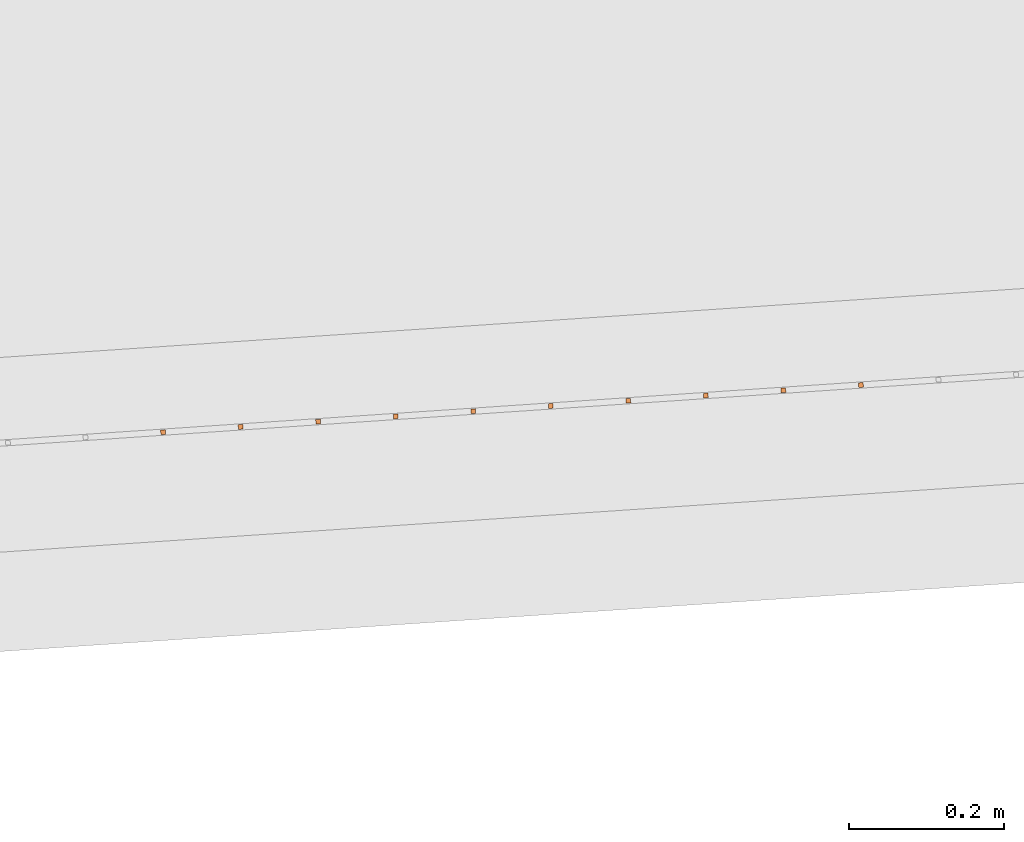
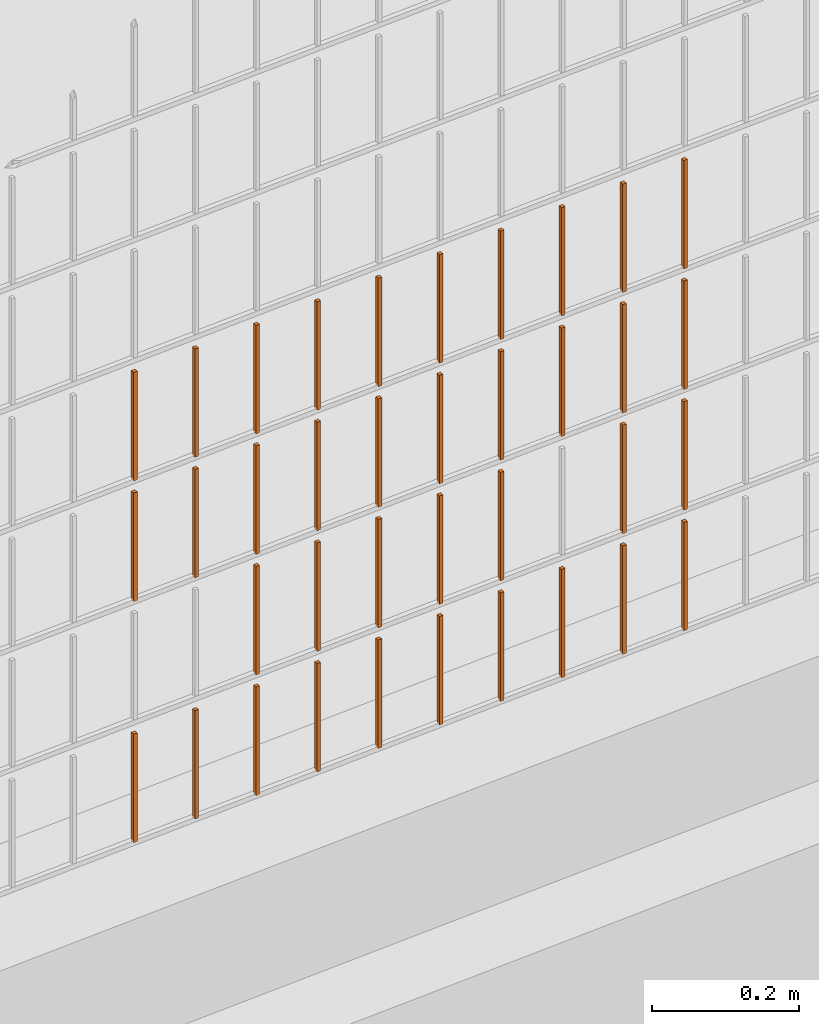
# One storey, part 213 of 1809: 37 proxies, 1 element without a shape of its own.
"""IFC2X3 building model written with IfcOpenShell, lengths in millimetres."""

from ifc_helpers import new_model, entity, si_unit, converted_unit, derived_unit, money_unit, direction, frame, origin_with_axes, place, context, subcontext, project, spatial, faceted_brep, source, transform, mapped, material, type_object, element, aggregate, save


model = new_model("IFC2X3")

# Units and contexts
model_context = context("Model", 3, precision=0.01, world=origin_with_axes(), true_north=direction((0.0, 1.0)))
body_context = subcontext(model_context, "Body", "Model", "MODEL_VIEW")
ifc_project = project(units=[si_unit("LENGTHUNIT", "METRE", prefix="MILLI"), si_unit("AREAUNIT", "SQUARE_METRE"), si_unit("VOLUMEUNIT", "CUBIC_METRE"), converted_unit("PLANEANGLEUNIT", "DEGREE", entity("IfcPlaneAngleMeasure", 0.0174532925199), si_unit("PLANEANGLEUNIT", "RADIAN"), dimensions=[0, 0, 0, 0, 0, 0, 0]), si_unit("SOLIDANGLEUNIT", "STERADIAN"), money_unit("EUR"), converted_unit("TIMEUNIT", "Year", entity("IfcTimeMeasure", 31556926.0), si_unit("TIMEUNIT", "SECOND"), dimensions=[0, 0, 1, 0, 0, 0, 0]), si_unit("MASSUNIT", "GRAM", prefix="KILO"), si_unit("THERMODYNAMICTEMPERATUREUNIT", "DEGREE_CELSIUS"), si_unit("LUMINOUSINTENSITYUNIT", "LUMEN"), si_unit("ENERGYUNIT", "JOULE", prefix="MEGA"), derived_unit("THERMALCONDUCTANCEUNIT", [(si_unit("POWERUNIT", "WATT"), 1), (si_unit("LENGTHUNIT", "METRE"), -1), (si_unit("THERMODYNAMICTEMPERATUREUNIT", "KELVIN"), -1)]), derived_unit("SPECIFICHEATCAPACITYUNIT", [(si_unit("ENERGYUNIT", "JOULE"), 1), (si_unit("MASSUNIT", "GRAM", prefix="KILO"), -1), (si_unit("THERMODYNAMICTEMPERATUREUNIT", "KELVIN"), -1)]), derived_unit("MASSDENSITYUNIT", [(si_unit("MASSUNIT", "GRAM", prefix="KILO"), 1), (si_unit("VOLUMEUNIT", "CUBIC_METRE"), -1)])], contexts=[model_context])

# Site, building, storey
site_placement = place(None, origin_with_axes())
site = spatial("IfcSite", under=ifc_project, at=site_placement, Name="Politse- ja Piirivalveameti ning Päästeameti ühishoone", CompositionType="ELEMENT")
building_placement = place(site_placement, origin_with_axes())
building = spatial("IfcBuilding", under=site, at=building_placement, Name="Politse- ja Piirivalveameti ning Päästeameti ühishoone", CompositionType="ELEMENT")
storey_placement = place(building_placement, origin_with_axes())
storey = spatial("IfcBuildingStorey", under=building, at=storey_placement, Name="Esimene korrus", CompositionType="ELEMENT", Elevation=0.0)

# Proxies
building_element_proxy_type_1 = type_object("IfcBuildingElementProxyType", Name="Railing Type", PredefinedType="NOTDEFINED")
proxy_1_placement = place(storey_placement, frame((89252.001212, -29183.4766571, 203.661247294), z_axis=(0.0, 0.0, 1.0), x_axis=(1.0, 0.0, 0.0)))
proxy_1 = element("IfcBuildingElementProxy", 1, at=proxy_1_placement, inside=storey, type_object=building_element_proxy_type_1, Name="PIIRDEAED")
ifc_material = material(Name="ET-03_Raud")
building_element_proxy_type_2 = type_object("IfcBuildingElementProxyType", Name="IfcBuildingElementProxy", PredefinedType="NOTDEFINED")
shared_shape_1 = source(origin_with_axes(), body_context, "Body", "Brep", [
    faceted_brep([(3.0, 3.0, -0.000752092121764), (-3.0, 3.0, -0.000752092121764), (-3.0, 3.0, 179.99926046), (3.0, 3.0, 179.99926046), (3.0, -3.0, 0.000752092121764), (-3.0, -3.0, 0.000752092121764), (-3.0, -3.0, 180.000764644), (3.0, -3.0, 180.000764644)], [[[0, 1, 2, 3]], [[0, 4, 5, 1]], [[1, 5, 6, 2]], [[3, 2, 6, 7]], [[4, 0, 3, 7]], [[5, 4, 7, 6]]]),
])
proxy_2_placement = place(proxy_1_placement, frame((-60688.4003334, -21397.0471744, 11.985294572), z_axis=(0.0, 0.0, 1.0), x_axis=(1.0, 0.0, 0.0)))
proxy_2 = element("IfcBuildingElementProxy", 2, at=proxy_2_placement, type_object=building_element_proxy_type_2, material=ifc_material, Name="BALUSTER - 001", context=body_context, shape_type="MappedRepresentation", body=[
    mapped(shared_shape_1, transform((0.0, 0.0, 0.0), x_axis=(-0.0673926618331, 0.997726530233, 0.0), y_axis=(-0.997726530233, -0.0673926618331, 0.0), z_axis=(0.0, 0.0, 1.0))),
])
shared_shape_2 = source(origin_with_axes(), body_context, "Body", "Brep", [
    faceted_brep([(3.0, 3.0, -0.000752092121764), (-3.0, 3.0, -0.000752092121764), (-3.0, 3.0, 179.99926046), (3.0, 3.0, 179.99926046), (3.0, -3.0, 0.000752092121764), (-3.0, -3.0, 0.000752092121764), (-3.0, -3.0, 180.000764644), (3.0, -3.0, 180.000764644)], [[[0, 1, 2, 3]], [[0, 4, 5, 1]], [[1, 5, 6, 2]], [[3, 2, 6, 7]], [[4, 0, 3, 7]], [[5, 4, 7, 6]]]),
])
proxy_3_placement = place(proxy_1_placement, frame((-60887.9456394, -21410.5257067, 11.9351550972), z_axis=(0.0, 0.0, 1.0), x_axis=(1.0, 0.0, 0.0)))
proxy_3 = element("IfcBuildingElementProxy", 3, at=proxy_3_placement, type_object=building_element_proxy_type_2, material=ifc_material, Name="BALUSTER - 001", context=body_context, shape_type="MappedRepresentation", body=[
    mapped(shared_shape_2, transform((0.0, 0.0, 0.0), x_axis=(-0.0673926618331, 0.997726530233, 0.0), y_axis=(-0.997726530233, -0.0673926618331, 0.0), z_axis=(0.0, 0.0, 1.0))),
])
shared_shape_3 = source(origin_with_axes(), body_context, "Body", "Brep", [
    faceted_brep([(3.0, 3.0, -0.000752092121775), (-3.0, 3.0, -0.000752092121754), (-3.0, 3.0, 179.99926046), (3.0, 3.0, 179.99926046), (3.0, -3.0, 0.000752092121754), (-3.0, -3.0, 0.000752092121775), (-3.0, -3.0, 180.000764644), (3.0, -3.0, 180.000764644)], [[[0, 1, 2, 3]], [[0, 4, 5, 1]], [[1, 5, 6, 2]], [[3, 2, 6, 7]], [[4, 0, 3, 7]], [[5, 4, 7, 6]]]),
])
proxy_4_placement = place(proxy_1_placement, frame((-60189.5370682, -21363.3508434, 12.110643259), z_axis=(0.0, 0.0, 1.0), x_axis=(1.0, 0.0, 0.0)))
proxy_4 = element("IfcBuildingElementProxy", 4, at=proxy_4_placement, type_object=building_element_proxy_type_2, material=ifc_material, Name="BALUSTER - 001", context=body_context, shape_type="MappedRepresentation", body=[
    mapped(shared_shape_3, transform((0.0, 0.0, 0.0), x_axis=(-0.0673926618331, 0.997726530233, 0.0), y_axis=(-0.997726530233, -0.0673926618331, 0.0), z_axis=(0.0, 0.0, 1.0))),
])
shared_shape_4 = source(origin_with_axes(), body_context, "Body", "Brep", [
    faceted_brep([(3.0, 3.0, -0.000752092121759), (-3.0, 3.0, -0.000752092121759), (-3.0, 3.0, 179.99926046), (3.0, 3.0, 179.99926046), (3.0, -3.0, 0.000752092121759), (-3.0, -3.0, 0.000752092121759), (-3.0, -3.0, 180.000764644), (3.0, -3.0, 180.000764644)], [[[0, 1, 2, 3]], [[0, 4, 5, 1]], [[1, 5, 6, 2]], [[3, 2, 6, 7]], [[4, 0, 3, 7]], [[5, 4, 7, 6]]]),
])
proxy_5_placement = place(proxy_1_placement, frame((-61087.4909454, -21424.0042391, 411.885015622), z_axis=(0.0, 0.0, 1.0), x_axis=(1.0, 0.0, 0.0)))
proxy_5 = element("IfcBuildingElementProxy", 5, at=proxy_5_placement, type_object=building_element_proxy_type_2, material=ifc_material, Name="BALUSTER - 001", context=body_context, shape_type="MappedRepresentation", body=[
    mapped(shared_shape_4, transform((0.0, 0.0, 0.0), x_axis=(-0.0673926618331, 0.997726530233, 0.0), y_axis=(-0.997726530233, -0.0673926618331, 0.0), z_axis=(0.0, 0.0, 1.0))),
])
shared_shape_5 = source(origin_with_axes(), body_context, "Body", "Brep", [
    faceted_brep([(3.0, 3.0, -0.000752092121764), (-3.0, 3.0, -0.000752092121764), (-3.0, 3.0, 179.99926046), (3.0, 3.0, 179.99926046), (3.0, -3.0, 0.000752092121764), (-3.0, -3.0, 0.000752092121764), (-3.0, -3.0, 180.000764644), (3.0, -3.0, 180.000764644)], [[[0, 1, 2, 3]], [[0, 4, 5, 1]], [[1, 5, 6, 2]], [[3, 2, 6, 7]], [[4, 0, 3, 7]], [[5, 4, 7, 6]]]),
])
proxy_6_placement = place(proxy_1_placement, frame((-60887.9456394, -21410.5257067, 211.935155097), z_axis=(0.0, 0.0, 1.0), x_axis=(1.0, 0.0, 0.0)))
proxy_6 = element("IfcBuildingElementProxy", 6, at=proxy_6_placement, type_object=building_element_proxy_type_2, material=ifc_material, Name="BALUSTER - 001", context=body_context, shape_type="MappedRepresentation", body=[
    mapped(shared_shape_5, transform((0.0, 0.0, 0.0), x_axis=(-0.0673926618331, 0.997726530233, 0.0), y_axis=(-0.997726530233, -0.0673926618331, 0.0), z_axis=(0.0, 0.0, 1.0))),
])
proxy_7_placement = place(proxy_1_placement, frame((-60887.9456394, -21410.5257067, 411.935155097), z_axis=(0.0, 0.0, 1.0), x_axis=(1.0, 0.0, 0.0)))
proxy_7 = element("IfcBuildingElementProxy", 7, at=proxy_7_placement, type_object=building_element_proxy_type_2, material=ifc_material, Name="BALUSTER - 001", context=body_context, shape_type="MappedRepresentation", body=[
    mapped(shared_shape_5, transform((0.0, 0.0, 0.0), x_axis=(-0.0673926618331, 0.997726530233, 0.0), y_axis=(-0.997726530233, -0.0673926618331, 0.0), z_axis=(0.0, 0.0, 1.0))),
])
proxy_8_placement = place(proxy_1_placement, frame((-60887.9456394, -21410.5257067, 611.935155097), z_axis=(0.0, 0.0, 1.0), x_axis=(1.0, 0.0, 0.0)))
proxy_8 = element("IfcBuildingElementProxy", 8, at=proxy_8_placement, type_object=building_element_proxy_type_2, material=ifc_material, Name="BALUSTER - 001", context=body_context, shape_type="MappedRepresentation", body=[
    mapped(shared_shape_5, transform((0.0, 0.0, 0.0), x_axis=(-0.0673926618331, 0.997726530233, 0.0), y_axis=(-0.997726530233, -0.0673926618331, 0.0), z_axis=(0.0, 0.0, 1.0))),
])
shared_shape_6 = source(origin_with_axes(), body_context, "Body", "Brep", [
    faceted_brep([(3.0, 3.0, -0.000752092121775), (-3.0, 3.0, -0.000752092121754), (-3.0, 3.0, 179.99926046), (3.0, 3.0, 179.99926046), (3.0, -3.0, 0.000752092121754), (-3.0, -3.0, 0.000752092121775), (-3.0, -3.0, 180.000764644), (3.0, -3.0, 180.000764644)], [[[0, 1, 2, 3]], [[0, 4, 5, 1]], [[1, 5, 6, 2]], [[3, 2, 6, 7]], [[4, 0, 3, 7]], [[5, 4, 7, 6]]]),
])
proxy_9_placement = place(proxy_1_placement, frame((-60189.5370682, -21363.3508434, 212.110643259), z_axis=(0.0, 0.0, 1.0), x_axis=(1.0, 0.0, 0.0)))
proxy_9 = element("IfcBuildingElementProxy", 9, at=proxy_9_placement, type_object=building_element_proxy_type_2, material=ifc_material, Name="BALUSTER - 001", context=body_context, shape_type="MappedRepresentation", body=[
    mapped(shared_shape_6, transform((0.0, 0.0, 0.0), x_axis=(-0.0673926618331, 0.997726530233, 0.0), y_axis=(-0.997726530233, -0.0673926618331, 0.0), z_axis=(0.0, 0.0, 1.0))),
])
proxy_10_placement = place(proxy_1_placement, frame((-60189.5370682, -21363.3508434, 412.110643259), z_axis=(0.0, 0.0, 1.0), x_axis=(1.0, 0.0, 0.0)))
proxy_10 = element("IfcBuildingElementProxy", 10, at=proxy_10_placement, type_object=building_element_proxy_type_2, material=ifc_material, Name="BALUSTER - 001", context=body_context, shape_type="MappedRepresentation", body=[
    mapped(shared_shape_6, transform((0.0, 0.0, 0.0), x_axis=(-0.0673926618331, 0.997726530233, 0.0), y_axis=(-0.997726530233, -0.0673926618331, 0.0), z_axis=(0.0, 0.0, 1.0))),
])
proxy_11_placement = place(proxy_1_placement, frame((-60189.5370682, -21363.3508434, 612.110643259), z_axis=(0.0, 0.0, 1.0), x_axis=(1.0, 0.0, 0.0)))
proxy_11 = element("IfcBuildingElementProxy", 11, at=proxy_11_placement, type_object=building_element_proxy_type_2, material=ifc_material, Name="BALUSTER - 001", context=body_context, shape_type="MappedRepresentation", body=[
    mapped(shared_shape_6, transform((0.0, 0.0, 0.0), x_axis=(-0.0673926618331, 0.997726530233, 0.0), y_axis=(-0.997726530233, -0.0673926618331, 0.0), z_axis=(0.0, 0.0, 1.0))),
])
shared_shape_7 = source(origin_with_axes(), body_context, "Body", "Brep", [
    faceted_brep([(3.0, 3.0, -0.000752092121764), (-3.0, 3.0, -0.000752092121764), (-3.0, 3.0, 179.99926046), (3.0, 3.0, 179.99926046), (3.0, -3.0, 0.000752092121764), (-3.0, -3.0, 0.000752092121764), (-3.0, -3.0, 180.000764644), (3.0, -3.0, 180.000764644)], [[[0, 1, 2, 3]], [[0, 4, 5, 1]], [[1, 5, 6, 2]], [[3, 2, 6, 7]], [[4, 0, 3, 7]], [[5, 4, 7, 6]]]),
])
proxy_12_placement = place(proxy_1_placement, frame((-60688.4003334, -21397.0471744, 211.985294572), z_axis=(0.0, 0.0, 1.0), x_axis=(1.0, 0.0, 0.0)))
proxy_12 = element("IfcBuildingElementProxy", 12, at=proxy_12_placement, type_object=building_element_proxy_type_2, material=ifc_material, Name="BALUSTER - 001", context=body_context, shape_type="MappedRepresentation", body=[
    mapped(shared_shape_7, transform((0.0, 0.0, 0.0), x_axis=(-0.0673926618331, 0.997726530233, 0.0), y_axis=(-0.997726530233, -0.0673926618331, 0.0), z_axis=(0.0, 0.0, 1.0))),
])
proxy_13_placement = place(proxy_1_placement, frame((-60688.4003334, -21397.0471744, 411.985294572), z_axis=(0.0, 0.0, 1.0), x_axis=(1.0, 0.0, 0.0)))
proxy_13 = element("IfcBuildingElementProxy", 13, at=proxy_13_placement, type_object=building_element_proxy_type_2, material=ifc_material, Name="BALUSTER - 001", context=body_context, shape_type="MappedRepresentation", body=[
    mapped(shared_shape_7, transform((0.0, 0.0, 0.0), x_axis=(-0.0673926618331, 0.997726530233, 0.0), y_axis=(-0.997726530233, -0.0673926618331, 0.0), z_axis=(0.0, 0.0, 1.0))),
])
proxy_14_placement = place(proxy_1_placement, frame((-60788.1729864, -21403.7864405, 411.960224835), z_axis=(0.0, 0.0, 1.0), x_axis=(1.0, 0.0, 0.0)))
proxy_14 = element("IfcBuildingElementProxy", 14, at=proxy_14_placement, type_object=building_element_proxy_type_2, material=ifc_material, Name="BALUSTER - 001", context=body_context, shape_type="MappedRepresentation", body=[
    mapped(shared_shape_7, transform((0.0, 0.0, 0.0), x_axis=(-0.0673926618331, 0.997726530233, 0.0), y_axis=(-0.997726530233, -0.0673926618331, 0.0), z_axis=(0.0, 0.0, 1.0))),
])
proxy_15_placement = place(proxy_1_placement, frame((-60788.1729864, -21403.7864405, 611.960224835), z_axis=(0.0, 0.0, 1.0), x_axis=(1.0, 0.0, 0.0)))
proxy_15 = element("IfcBuildingElementProxy", 15, at=proxy_15_placement, type_object=building_element_proxy_type_2, material=ifc_material, Name="BALUSTER - 001", context=body_context, shape_type="MappedRepresentation", body=[
    mapped(shared_shape_7, transform((0.0, 0.0, 0.0), x_axis=(-0.0673926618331, 0.997726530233, 0.0), y_axis=(-0.997726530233, -0.0673926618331, 0.0), z_axis=(0.0, 0.0, 1.0))),
])
shared_shape_8 = source(origin_with_axes(), body_context, "Body", "Brep", [
    faceted_brep([(3.0, 3.0, -0.000752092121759), (-3.0, 3.0, -0.000752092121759), (-3.0, 3.0, 179.99926046), (3.0, 3.0, 179.99926046), (3.0, -3.0, 0.000752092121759), (-3.0, -3.0, 0.000752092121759), (-3.0, -3.0, 180.000764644), (3.0, -3.0, 180.000764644)], [[[0, 1, 2, 3]], [[0, 4, 5, 1]], [[1, 5, 6, 2]], [[3, 2, 6, 7]], [[4, 0, 3, 7]], [[5, 4, 7, 6]]]),
])
proxy_16_placement = place(proxy_1_placement, frame((-60289.3097213, -21370.0901096, 212.085573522), z_axis=(0.0, 0.0, 1.0), x_axis=(1.0, 0.0, 0.0)))
proxy_16 = element("IfcBuildingElementProxy", 16, at=proxy_16_placement, type_object=building_element_proxy_type_2, material=ifc_material, Name="BALUSTER - 001", context=body_context, shape_type="MappedRepresentation", body=[
    mapped(shared_shape_8, transform((0.0, 0.0, 0.0), x_axis=(-0.0673926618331, 0.997726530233, 0.0), y_axis=(-0.997726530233, -0.0673926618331, 0.0), z_axis=(0.0, 0.0, 1.0))),
])
proxy_17_placement = place(proxy_1_placement, frame((-60289.3097213, -21370.0901096, 612.085573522), z_axis=(0.0, 0.0, 1.0), x_axis=(1.0, 0.0, 0.0)))
proxy_17 = element("IfcBuildingElementProxy", 17, at=proxy_17_placement, type_object=building_element_proxy_type_2, material=ifc_material, Name="BALUSTER - 001", context=body_context, shape_type="MappedRepresentation", body=[
    mapped(shared_shape_8, transform((0.0, 0.0, 0.0), x_axis=(-0.0673926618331, 0.997726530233, 0.0), y_axis=(-0.997726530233, -0.0673926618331, 0.0), z_axis=(0.0, 0.0, 1.0))),
])
shared_shape_9 = source(origin_with_axes(), body_context, "Body", "Brep", [
    faceted_brep([(3.0, 3.0, -0.000752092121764), (-3.0, 3.0, -0.000752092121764), (-3.0, 3.0, 179.99926046), (3.0, 3.0, 179.99926046), (3.0, -3.0, 0.000752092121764), (-3.0, -3.0, 0.000752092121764), (-3.0, -3.0, 180.000764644), (3.0, -3.0, 180.000764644)], [[[0, 1, 2, 3]], [[0, 4, 5, 1]], [[1, 5, 6, 2]], [[3, 2, 6, 7]], [[4, 0, 3, 7]], [[5, 4, 7, 6]]]),
])
proxy_18_placement = place(proxy_1_placement, frame((-60788.1729864, -21403.7864405, 211.960224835), z_axis=(0.0, 0.0, 1.0), x_axis=(1.0, 0.0, 0.0)))
proxy_18 = element("IfcBuildingElementProxy", 18, at=proxy_18_placement, type_object=building_element_proxy_type_2, material=ifc_material, Name="BALUSTER - 001", context=body_context, shape_type="MappedRepresentation", body=[
    mapped(shared_shape_9, transform((0.0, 0.0, 0.0), x_axis=(-0.0673926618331, 0.997726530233, 0.0), y_axis=(-0.997726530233, -0.0673926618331, 0.0), z_axis=(0.0, 0.0, 1.0))),
])
shared_shape_10 = source(origin_with_axes(), body_context, "Body", "Brep", [
    faceted_brep([(3.0, 3.0, -0.000752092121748), (-3.0, 3.0, -0.00075209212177), (-3.0, 3.0, 179.99926046), (3.0, 3.0, 179.99926046), (3.0, -3.0, 0.00075209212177), (-3.0, -3.0, 0.000752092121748), (-3.0, -3.0, 180.000764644), (3.0, -3.0, 180.000764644)], [[[0, 1, 2, 3]], [[0, 4, 5, 1]], [[1, 5, 6, 2]], [[3, 2, 6, 7]], [[4, 0, 3, 7]], [[5, 4, 7, 6]]]),
])
proxy_19_placement = place(proxy_1_placement, frame((-60588.6276803, -21390.3079082, 412.010364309), z_axis=(0.0, 0.0, 1.0), x_axis=(1.0, 0.0, 0.0)))
proxy_19 = element("IfcBuildingElementProxy", 19, at=proxy_19_placement, type_object=building_element_proxy_type_2, material=ifc_material, Name="BALUSTER - 001", context=body_context, shape_type="MappedRepresentation", body=[
    mapped(shared_shape_10, transform((0.0, 0.0, 0.0), x_axis=(-0.0673926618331, 0.997726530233, 0.0), y_axis=(-0.997726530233, -0.0673926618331, 0.0), z_axis=(0.0, 0.0, 1.0))),
])
shared_shape_11 = source(origin_with_axes(), body_context, "Body", "Brep", [
    faceted_brep([(3.0, 3.0, -0.000752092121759), (-3.0, 3.0, -0.000752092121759), (-3.0, 3.0, 179.99926046), (3.0, 3.0, 179.99926046), (3.0, -3.0, 0.000752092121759), (-3.0, -3.0, 0.000752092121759), (-3.0, -3.0, 180.000764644), (3.0, -3.0, 180.000764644)], [[[0, 1, 2, 3]], [[0, 4, 5, 1]], [[1, 5, 6, 2]], [[3, 2, 6, 7]], [[4, 0, 3, 7]], [[5, 4, 7, 6]]]),
])
proxy_20_placement = place(proxy_1_placement, frame((-61087.4909454, -21424.0042391, 611.885015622), z_axis=(0.0, 0.0, 1.0), x_axis=(1.0, 0.0, 0.0)))
proxy_20 = element("IfcBuildingElementProxy", 20, at=proxy_20_placement, type_object=building_element_proxy_type_2, material=ifc_material, Name="BALUSTER - 001", context=body_context, shape_type="MappedRepresentation", body=[
    mapped(shared_shape_11, transform((0.0, 0.0, 0.0), x_axis=(-0.0673926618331, 0.997726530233, 0.0), y_axis=(-0.997726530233, -0.0673926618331, 0.0), z_axis=(0.0, 0.0, 1.0))),
])
shared_shape_12 = source(origin_with_axes(), body_context, "Body", "Brep", [
    faceted_brep([(3.0, 3.0, -0.000752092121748), (-3.0, 3.0, -0.00075209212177), (-3.0, 3.0, 179.99926046), (3.0, 3.0, 179.99926046), (3.0, -3.0, 0.00075209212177), (-3.0, -3.0, 0.000752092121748), (-3.0, -3.0, 180.000764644), (3.0, -3.0, 180.000764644)], [[[0, 1, 2, 3]], [[0, 4, 5, 1]], [[1, 5, 6, 2]], [[3, 2, 6, 7]], [[4, 0, 3, 7]], [[5, 4, 7, 6]]]),
])
proxy_21_placement = place(proxy_1_placement, frame((-60588.6276803, -21390.3079082, 612.010364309), z_axis=(0.0, 0.0, 1.0), x_axis=(1.0, 0.0, 0.0)))
proxy_21 = element("IfcBuildingElementProxy", 21, at=proxy_21_placement, type_object=building_element_proxy_type_2, material=ifc_material, Name="BALUSTER - 001", context=body_context, shape_type="MappedRepresentation", body=[
    mapped(shared_shape_12, transform((0.0, 0.0, 0.0), x_axis=(-0.0673926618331, 0.997726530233, 0.0), y_axis=(-0.997726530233, -0.0673926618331, 0.0), z_axis=(0.0, 0.0, 1.0))),
])
shared_shape_13 = source(origin_with_axes(), body_context, "Body", "Brep", [
    faceted_brep([(3.0, 3.0, -0.000752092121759), (-3.0, 3.0, -0.000752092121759), (-3.0, 3.0, 179.99926046), (3.0, 3.0, 179.99926046), (3.0, -3.0, 0.000752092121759), (-3.0, -3.0, 0.000752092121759), (-3.0, -3.0, 180.000764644), (3.0, -3.0, 180.000764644)], [[[0, 1, 2, 3]], [[0, 4, 5, 1]], [[1, 5, 6, 2]], [[3, 2, 6, 7]], [[4, 0, 3, 7]], [[5, 4, 7, 6]]]),
])
proxy_22_placement = place(proxy_1_placement, frame((-60289.3097213, -21370.0901096, 12.0855735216), z_axis=(0.0, 0.0, 1.0), x_axis=(1.0, 0.0, 0.0)))
proxy_22 = element("IfcBuildingElementProxy", 22, at=proxy_22_placement, type_object=building_element_proxy_type_2, material=ifc_material, Name="BALUSTER - 001", context=body_context, shape_type="MappedRepresentation", body=[
    mapped(shared_shape_13, transform((0.0, 0.0, 0.0), x_axis=(-0.0673926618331, 0.997726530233, 0.0), y_axis=(-0.997726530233, -0.0673926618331, 0.0), z_axis=(0.0, 0.0, 1.0))),
])
shared_shape_14 = source(origin_with_axes(), body_context, "Body", "Brep", [
    faceted_brep([(3.0, 3.0, -0.000752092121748), (-3.0, 3.0, -0.00075209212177), (-3.0, 3.0, 179.99926046), (3.0, 3.0, 179.99926046), (3.0, -3.0, 0.00075209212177), (-3.0, -3.0, 0.000752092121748), (-3.0, -3.0, 180.000764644), (3.0, -3.0, 180.000764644)], [[[0, 1, 2, 3]], [[0, 4, 5, 1]], [[1, 5, 6, 2]], [[3, 2, 6, 7]], [[4, 0, 3, 7]], [[5, 4, 7, 6]]]),
])
proxy_23_placement = place(proxy_1_placement, frame((-60389.0823743, -21376.8293758, 12.0605037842), z_axis=(0.0, 0.0, 1.0), x_axis=(1.0, 0.0, 0.0)))
proxy_23 = element("IfcBuildingElementProxy", 23, at=proxy_23_placement, type_object=building_element_proxy_type_2, material=ifc_material, Name="BALUSTER - 001", context=body_context, shape_type="MappedRepresentation", body=[
    mapped(shared_shape_14, transform((0.0, 0.0, 0.0), x_axis=(-0.0673926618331, 0.997726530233, 0.0), y_axis=(-0.997726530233, -0.0673926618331, 0.0), z_axis=(0.0, 0.0, 1.0))),
])
proxy_24_placement = place(proxy_1_placement, frame((-60987.7182924, -21417.2649729, 11.9100853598), z_axis=(0.0, 0.0, 1.0), x_axis=(1.0, 0.0, 0.0)))
proxy_24 = element("IfcBuildingElementProxy", 24, at=proxy_24_placement, type_object=building_element_proxy_type_2, material=ifc_material, Name="BALUSTER - 001", context=body_context, shape_type="MappedRepresentation", body=[
    mapped(shared_shape_14, transform((0.0, 0.0, 0.0), x_axis=(-0.0673926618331, 0.997726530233, 0.0), y_axis=(-0.997726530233, -0.0673926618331, 0.0), z_axis=(0.0, 0.0, 1.0))),
])
shared_shape_15 = source(origin_with_axes(), body_context, "Body", "Brep", [
    faceted_brep([(3.0, 3.0, -0.000752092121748), (-3.0, 3.0, -0.00075209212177), (-3.0, 3.0, 179.99926046), (3.0, 3.0, 179.99926046), (3.0, -3.0, 0.00075209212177), (-3.0, -3.0, 0.000752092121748), (-3.0, -3.0, 180.000764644), (3.0, -3.0, 180.000764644)], [[[0, 1, 2, 3]], [[0, 4, 5, 1]], [[1, 5, 6, 2]], [[3, 2, 6, 7]], [[4, 0, 3, 7]], [[5, 4, 7, 6]]]),
])
proxy_25_placement = place(proxy_1_placement, frame((-60488.8550273, -21383.568642, 12.0354340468), z_axis=(0.0, 0.0, 1.0), x_axis=(1.0, 0.0, 0.0)))
proxy_25 = element("IfcBuildingElementProxy", 25, at=proxy_25_placement, type_object=building_element_proxy_type_2, material=ifc_material, Name="BALUSTER - 001", context=body_context, shape_type="MappedRepresentation", body=[
    mapped(shared_shape_15, transform((0.0, 0.0, 0.0), x_axis=(-0.0673926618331, 0.997726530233, 0.0), y_axis=(-0.997726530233, -0.0673926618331, 0.0), z_axis=(0.0, 0.0, 1.0))),
])
proxy_26_placement = place(proxy_1_placement, frame((-60488.8550273, -21383.568642, 212.035434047), z_axis=(0.0, 0.0, 1.0), x_axis=(1.0, 0.0, 0.0)))
proxy_26 = element("IfcBuildingElementProxy", 26, at=proxy_26_placement, type_object=building_element_proxy_type_2, material=ifc_material, Name="BALUSTER - 001", context=body_context, shape_type="MappedRepresentation", body=[
    mapped(shared_shape_15, transform((0.0, 0.0, 0.0), x_axis=(-0.0673926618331, 0.997726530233, 0.0), y_axis=(-0.997726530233, -0.0673926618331, 0.0), z_axis=(0.0, 0.0, 1.0))),
])
shared_shape_16 = source(origin_with_axes(), body_context, "Body", "Brep", [
    faceted_brep([(3.0, 3.0, -0.000752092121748), (-3.0, 3.0, -0.00075209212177), (-3.0, 3.0, 179.99926046), (3.0, 3.0, 179.99926046), (3.0, -3.0, 0.00075209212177), (-3.0, -3.0, 0.000752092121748), (-3.0, -3.0, 180.000764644), (3.0, -3.0, 180.000764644)], [[[0, 1, 2, 3]], [[0, 4, 5, 1]], [[1, 5, 6, 2]], [[3, 2, 6, 7]], [[4, 0, 3, 7]], [[5, 4, 7, 6]]]),
])
proxy_27_placement = place(proxy_1_placement, frame((-60588.6276803, -21390.3079082, 12.0103643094), z_axis=(0.0, 0.0, 1.0), x_axis=(1.0, 0.0, 0.0)))
proxy_27 = element("IfcBuildingElementProxy", 27, at=proxy_27_placement, type_object=building_element_proxy_type_2, material=ifc_material, Name="BALUSTER - 001", context=body_context, shape_type="MappedRepresentation", body=[
    mapped(shared_shape_16, transform((0.0, 0.0, 0.0), x_axis=(-0.0673926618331, 0.997726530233, 0.0), y_axis=(-0.997726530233, -0.0673926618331, 0.0), z_axis=(0.0, 0.0, 1.0))),
])
proxy_28_placement = place(proxy_1_placement, frame((-60588.6276803, -21390.3079082, 212.010364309), z_axis=(0.0, 0.0, 1.0), x_axis=(1.0, 0.0, 0.0)))
proxy_28 = element("IfcBuildingElementProxy", 28, at=proxy_28_placement, type_object=building_element_proxy_type_2, material=ifc_material, Name="BALUSTER - 001", context=body_context, shape_type="MappedRepresentation", body=[
    mapped(shared_shape_16, transform((0.0, 0.0, 0.0), x_axis=(-0.0673926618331, 0.997726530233, 0.0), y_axis=(-0.997726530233, -0.0673926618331, 0.0), z_axis=(0.0, 0.0, 1.0))),
])
shared_shape_17 = source(origin_with_axes(), body_context, "Body", "Brep", [
    faceted_brep([(3.0, 3.0, -0.000752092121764), (-3.0, 3.0, -0.000752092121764), (-3.0, 3.0, 179.99926046), (3.0, 3.0, 179.99926046), (3.0, -3.0, 0.000752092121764), (-3.0, -3.0, 0.000752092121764), (-3.0, -3.0, 180.000764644), (3.0, -3.0, 180.000764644)], [[[0, 1, 2, 3]], [[0, 4, 5, 1]], [[1, 5, 6, 2]], [[3, 2, 6, 7]], [[4, 0, 3, 7]], [[5, 4, 7, 6]]]),
])
proxy_29_placement = place(proxy_1_placement, frame((-60788.1729864, -21403.7864405, 11.9602248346), z_axis=(0.0, 0.0, 1.0), x_axis=(1.0, 0.0, 0.0)))
proxy_29 = element("IfcBuildingElementProxy", 29, at=proxy_29_placement, type_object=building_element_proxy_type_2, material=ifc_material, Name="BALUSTER - 001", context=body_context, shape_type="MappedRepresentation", body=[
    mapped(shared_shape_17, transform((0.0, 0.0, 0.0), x_axis=(-0.0673926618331, 0.997726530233, 0.0), y_axis=(-0.997726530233, -0.0673926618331, 0.0), z_axis=(0.0, 0.0, 1.0))),
])
shared_shape_18 = source(origin_with_axes(), body_context, "Body", "Brep", [
    faceted_brep([(3.0, 3.0, -0.000752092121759), (-3.0, 3.0, -0.000752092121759), (-3.0, 3.0, 179.99926046), (3.0, 3.0, 179.99926046), (3.0, -3.0, 0.000752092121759), (-3.0, -3.0, 0.000752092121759), (-3.0, -3.0, 180.000764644), (3.0, -3.0, 180.000764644)], [[[0, 1, 2, 3]], [[0, 4, 5, 1]], [[1, 5, 6, 2]], [[3, 2, 6, 7]], [[4, 0, 3, 7]], [[5, 4, 7, 6]]]),
])
proxy_30_placement = place(proxy_1_placement, frame((-61087.4909454, -21424.0042391, 11.8850156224), z_axis=(0.0, 0.0, 1.0), x_axis=(1.0, 0.0, 0.0)))
proxy_30 = element("IfcBuildingElementProxy", 30, at=proxy_30_placement, type_object=building_element_proxy_type_2, material=ifc_material, Name="BALUSTER - 001", context=body_context, shape_type="MappedRepresentation", body=[
    mapped(shared_shape_18, transform((0.0, 0.0, 0.0), x_axis=(-0.0673926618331, 0.997726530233, 0.0), y_axis=(-0.997726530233, -0.0673926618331, 0.0), z_axis=(0.0, 0.0, 1.0))),
])
shared_shape_19 = source(origin_with_axes(), body_context, "Body", "Brep", [
    faceted_brep([(3.0, 3.0, -0.000752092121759), (-3.0, 3.0, -0.000752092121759), (-3.0, 3.0, 179.99926046), (3.0, 3.0, 179.99926046), (3.0, -3.0, 0.000752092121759), (-3.0, -3.0, 0.000752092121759), (-3.0, -3.0, 180.000764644), (3.0, -3.0, 180.000764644)], [[[0, 1, 2, 3]], [[0, 4, 5, 1]], [[1, 5, 6, 2]], [[3, 2, 6, 7]], [[4, 0, 3, 7]], [[5, 4, 7, 6]]]),
])
proxy_31_placement = place(proxy_1_placement, frame((-60289.3097213, -21370.0901096, 412.085573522), z_axis=(0.0, 0.0, 1.0), x_axis=(1.0, 0.0, 0.0)))
proxy_31 = element("IfcBuildingElementProxy", 31, at=proxy_31_placement, type_object=building_element_proxy_type_2, material=ifc_material, Name="BALUSTER - 001", context=body_context, shape_type="MappedRepresentation", body=[
    mapped(shared_shape_19, transform((0.0, 0.0, 0.0), x_axis=(-0.0673926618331, 0.997726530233, 0.0), y_axis=(-0.997726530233, -0.0673926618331, 0.0), z_axis=(0.0, 0.0, 1.0))),
])
shared_shape_20 = source(origin_with_axes(), body_context, "Body", "Brep", [
    faceted_brep([(3.0, 3.0, -0.000752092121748), (-3.0, 3.0, -0.00075209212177), (-3.0, 3.0, 179.99926046), (3.0, 3.0, 179.99926046), (3.0, -3.0, 0.00075209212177), (-3.0, -3.0, 0.000752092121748), (-3.0, -3.0, 180.000764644), (3.0, -3.0, 180.000764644)], [[[0, 1, 2, 3]], [[0, 4, 5, 1]], [[1, 5, 6, 2]], [[3, 2, 6, 7]], [[4, 0, 3, 7]], [[5, 4, 7, 6]]]),
])
proxy_32_placement = place(proxy_1_placement, frame((-60389.0823743, -21376.8293758, 412.060503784), z_axis=(0.0, 0.0, 1.0), x_axis=(1.0, 0.0, 0.0)))
proxy_32 = element("IfcBuildingElementProxy", 32, at=proxy_32_placement, type_object=building_element_proxy_type_2, material=ifc_material, Name="BALUSTER - 001", context=body_context, shape_type="MappedRepresentation", body=[
    mapped(shared_shape_20, transform((0.0, 0.0, 0.0), x_axis=(-0.0673926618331, 0.997726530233, 0.0), y_axis=(-0.997726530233, -0.0673926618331, 0.0), z_axis=(0.0, 0.0, 1.0))),
])
proxy_33_placement = place(proxy_1_placement, frame((-60488.8550273, -21383.568642, 412.035434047), z_axis=(0.0, 0.0, 1.0), x_axis=(1.0, 0.0, 0.0)))
proxy_33 = element("IfcBuildingElementProxy", 33, at=proxy_33_placement, type_object=building_element_proxy_type_2, material=ifc_material, Name="BALUSTER - 001", context=body_context, shape_type="MappedRepresentation", body=[
    mapped(shared_shape_20, transform((0.0, 0.0, 0.0), x_axis=(-0.0673926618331, 0.997726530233, 0.0), y_axis=(-0.997726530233, -0.0673926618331, 0.0), z_axis=(0.0, 0.0, 1.0))),
])
proxy_34_placement = place(proxy_1_placement, frame((-60987.7182924, -21417.2649729, 611.91008536), z_axis=(0.0, 0.0, 1.0), x_axis=(1.0, 0.0, 0.0)))
proxy_34 = element("IfcBuildingElementProxy", 34, at=proxy_34_placement, type_object=building_element_proxy_type_2, material=ifc_material, Name="BALUSTER - 001", context=body_context, shape_type="MappedRepresentation", body=[
    mapped(shared_shape_20, transform((0.0, 0.0, 0.0), x_axis=(-0.0673926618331, 0.997726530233, 0.0), y_axis=(-0.997726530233, -0.0673926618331, 0.0), z_axis=(0.0, 0.0, 1.0))),
])
shared_shape_21 = source(origin_with_axes(), body_context, "Body", "Brep", [
    faceted_brep([(3.0, 3.0, -0.000752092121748), (-3.0, 3.0, -0.00075209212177), (-3.0, 3.0, 179.99926046), (3.0, 3.0, 179.99926046), (3.0, -3.0, 0.00075209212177), (-3.0, -3.0, 0.000752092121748), (-3.0, -3.0, 180.000764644), (3.0, -3.0, 180.000764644)], [[[0, 1, 2, 3]], [[0, 4, 5, 1]], [[1, 5, 6, 2]], [[3, 2, 6, 7]], [[4, 0, 3, 7]], [[5, 4, 7, 6]]]),
])
proxy_35_placement = place(proxy_1_placement, frame((-60987.7182924, -21417.2649729, 411.91008536), z_axis=(0.0, 0.0, 1.0), x_axis=(1.0, 0.0, 0.0)))
proxy_35 = element("IfcBuildingElementProxy", 35, at=proxy_35_placement, type_object=building_element_proxy_type_2, material=ifc_material, Name="BALUSTER - 001", context=body_context, shape_type="MappedRepresentation", body=[
    mapped(shared_shape_21, transform((0.0, 0.0, 0.0), x_axis=(-0.0673926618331, 0.997726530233, 0.0), y_axis=(-0.997726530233, -0.0673926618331, 0.0), z_axis=(0.0, 0.0, 1.0))),
])
proxy_36_placement = place(proxy_1_placement, frame((-60389.0823743, -21376.8293758, 612.060503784), z_axis=(0.0, 0.0, 1.0), x_axis=(1.0, 0.0, 0.0)))
proxy_36 = element("IfcBuildingElementProxy", 36, at=proxy_36_placement, type_object=building_element_proxy_type_2, material=ifc_material, Name="BALUSTER - 001", context=body_context, shape_type="MappedRepresentation", body=[
    mapped(shared_shape_21, transform((0.0, 0.0, 0.0), x_axis=(-0.0673926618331, 0.997726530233, 0.0), y_axis=(-0.997726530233, -0.0673926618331, 0.0), z_axis=(0.0, 0.0, 1.0))),
])
shared_shape_22 = source(origin_with_axes(), body_context, "Body", "Brep", [
    faceted_brep([(3.0, 3.0, -0.000752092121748), (-3.0, 3.0, -0.00075209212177), (-3.0, 3.0, 179.99926046), (3.0, 3.0, 179.99926046), (3.0, -3.0, 0.00075209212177), (-3.0, -3.0, 0.000752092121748), (-3.0, -3.0, 180.000764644), (3.0, -3.0, 180.000764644)], [[[0, 1, 2, 3]], [[0, 4, 5, 1]], [[1, 5, 6, 2]], [[3, 2, 6, 7]], [[4, 0, 3, 7]], [[5, 4, 7, 6]]]),
])
proxy_37_placement = place(proxy_1_placement, frame((-60488.8550273, -21383.568642, 612.035434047), z_axis=(0.0, 0.0, 1.0), x_axis=(1.0, 0.0, 0.0)))
proxy_37 = element("IfcBuildingElementProxy", 37, at=proxy_37_placement, type_object=building_element_proxy_type_2, material=ifc_material, Name="BALUSTER - 001", context=body_context, shape_type="MappedRepresentation", body=[
    mapped(shared_shape_22, transform((0.0, 0.0, 0.0), x_axis=(-0.0673926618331, 0.997726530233, 0.0), y_axis=(-0.997726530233, -0.0673926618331, 0.0), z_axis=(0.0, 0.0, 1.0))),
])
shared_shape_23 = source(origin_with_axes(), body_context, "Body", "Brep", [
    faceted_brep([(3.0, 3.0, -0.000752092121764), (-3.0, 3.0, -0.000752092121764), (-3.0, 3.0, 179.99926046), (3.0, 3.0, 179.99926046), (3.0, -3.0, 0.000752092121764), (-3.0, -3.0, 0.000752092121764), (-3.0, -3.0, 180.000764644), (3.0, -3.0, 180.000764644)], [[[0, 1, 2, 3]], [[0, 4, 5, 1]], [[1, 5, 6, 2]], [[3, 2, 6, 7]], [[4, 0, 3, 7]], [[5, 4, 7, 6]]]),
])
proxy_38_placement = place(proxy_1_placement, frame((-60688.4003334, -21397.0471744, 611.985294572), z_axis=(0.0, 0.0, 1.0), x_axis=(1.0, 0.0, 0.0)))
proxy_38 = element("IfcBuildingElementProxy", 38, at=proxy_38_placement, type_object=building_element_proxy_type_2, material=ifc_material, Name="BALUSTER - 001", context=body_context, shape_type="MappedRepresentation", body=[
    mapped(shared_shape_23, transform((0.0, 0.0, 0.0), x_axis=(-0.0673926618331, 0.997726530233, 0.0), y_axis=(-0.997726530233, -0.0673926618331, 0.0), z_axis=(0.0, 0.0, 1.0))),
])
aggregate(proxy_1, [proxy_4, proxy_22, proxy_23, proxy_25, proxy_27, proxy_2, proxy_29, proxy_3, proxy_24, proxy_30, proxy_9, proxy_16, proxy_26, proxy_28, proxy_12, proxy_18, proxy_6, proxy_10, proxy_31, proxy_32, proxy_33, proxy_19, proxy_13, proxy_14, proxy_7, proxy_35, proxy_5, proxy_11, proxy_17, proxy_36, proxy_37, proxy_21, proxy_38, proxy_15, proxy_8, proxy_34, proxy_20])

save(model, "model.ifc")
